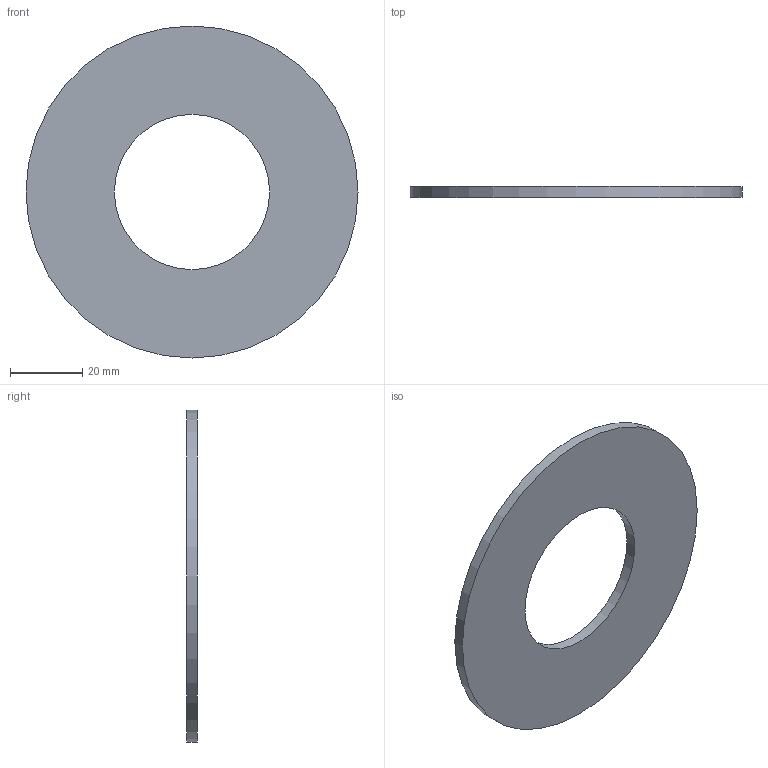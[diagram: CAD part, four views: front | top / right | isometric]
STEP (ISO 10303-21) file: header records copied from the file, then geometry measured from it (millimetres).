
FILE_DESCRIPTION(/* description */ ('Unknown'),/* implementation_level */ '2;1');
FILE_NAME(/* name */ 'GUA.050H',/* time_stamp */ '2021-04-01T14:57:39+02:00',/* author */ ('Unknown'),/* organization */ ('Unknown'),/* preprocessor_version */ 'ST-DEVELOPER v16.7',/* originating_system */ 'Solid Edge',/* authorisation */ 'Unknown');
FILE_SCHEMA (('AUTOMOTIVE_DESIGN {1 0 10303 214 3 1 1}'));
Length unit declared in the file: millimetre
Products named in the file (1): GUA.050H
Bounding box: 92 x 3 x 92 mm (x, y, z)
Volume: 15586.2 mm3; surface area: 11663.2 mm2
Topology: 1 solids, 1 shells, 4 faces, 6 edges, 4 vertices
Faces by surface type: cylinder 2, plane 2
Full cylindrical faces by diameter (mm): 43 x1, 92 x1
Entity records: 118 total; most frequent: DIRECTION 18, CARTESIAN_POINT 13, AXIS2_PLACEMENT_3D 9, ORIENTED_EDGE 8, EDGE_LOOP 8, FACE_BOUND 8, EDGE_CURVE 4, VERTEX_POINT 4
